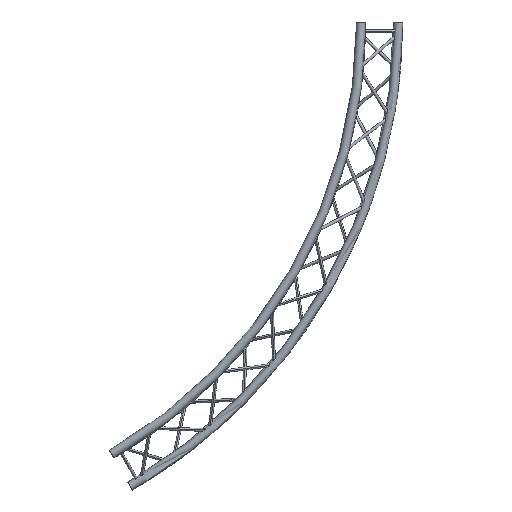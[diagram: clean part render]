
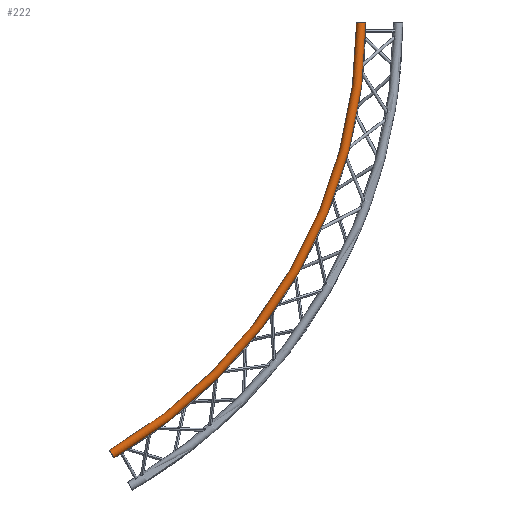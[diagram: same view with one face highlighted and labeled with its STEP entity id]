
A CAD part, front view. The second image highlights one B-rep face of the part: STEP entity #222.
In plain terms, the highlighted toroidal (fillet/blend) face has major radius 2769.75 mm and minor radius 25 mm.
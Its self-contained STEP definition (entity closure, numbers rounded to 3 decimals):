
#197 = EDGE_CURVE ( 'NONE', #198, #7421, #3575, .T. ) ;
#198 = VERTEX_POINT ( 'NONE', #3570 ) ;
#199 = ORIENTED_EDGE ( 'NONE', *, *, #200, .F. ) ;
#200 = EDGE_CURVE ( 'NONE', #208, #198, #3569, .T. ) ;
#206 = ORIENTED_EDGE ( 'NONE', *, *, #207, .T. ) ;
#207 = EDGE_CURVE ( 'NONE', #208, #209, #3636, .T. ) ;
#208 = VERTEX_POINT ( 'NONE', #3518 ) ;
#209 = VERTEX_POINT ( 'NONE', #3517 ) ;
#222 = ADVANCED_FACE ( 'NONE', ( #3690 ), #3689, .T. ) ;
#223 = EDGE_LOOP ( 'NONE', ( #206, #7210, #7288, #199 ) ) ;
#3517 = CARTESIAN_POINT ( 'NONE',  ( 1397.376, -118.5, -2420.326 ) ) ;
#3518 = CARTESIAN_POINT ( 'NONE',  ( 1372.376, -118.5, -2377.025 ) ) ;
#3519 = DIRECTION ( 'NONE',  ( 0.5, 0., -0.866 ) ) ;
#3520 = DIRECTION ( 'NONE',  ( 0.866, 0., 0.5 ) ) ;
#3521 = CARTESIAN_POINT ( 'NONE',  ( 1384.876, -118.5, -2398.676 ) ) ;
#3522 = AXIS2_PLACEMENT_3D ( 'NONE', #3521, #3520, #3519 ) ;
#3565 = DIRECTION ( 'NONE',  ( 0., 0., -1. ) ) ;
#3566 = DIRECTION ( 'NONE',  ( 0., -1., 0. ) ) ;
#3567 = CARTESIAN_POINT ( 'NONE',  ( 0., -118.5, 0. ) ) ;
#3568 = AXIS2_PLACEMENT_3D ( 'NONE', #3567, #3566, #3565 ) ;
#3569 = CIRCLE ( 'NONE', #3568, 2744.752 ) ;
#3570 = CARTESIAN_POINT ( 'NONE',  ( 2744.752, -118.5, 0. ) ) ;
#3571 = DIRECTION ( 'NONE',  ( 1., 0., 0. ) ) ;
#3572 = DIRECTION ( 'NONE',  ( 0., 0., 1. ) ) ;
#3573 = CARTESIAN_POINT ( 'NONE',  ( 2769.752, -118.5, 0. ) ) ;
#3574 = AXIS2_PLACEMENT_3D ( 'NONE', #3573, #3572, #3571 ) ;
#3575 = CIRCLE ( 'NONE', #3574, 25. ) ;
#3636 = CIRCLE ( 'NONE', #3522, 25. ) ;
#3684 = DIRECTION ( 'NONE',  ( 0., 0., -1. ) ) ;
#3685 = DIRECTION ( 'NONE',  ( 0., -1., 0. ) ) ;
#3686 = AXIS2_PLACEMENT_3D ( 'NONE', #3688, #3685, #3684 ) ;
#3688 = CARTESIAN_POINT ( 'NONE',  ( 0., -118.5, 0. ) ) ;
#3689 = TOROIDAL_SURFACE ( 'NONE', #3686, 2769.752, 25. ) ;
#3690 = FACE_OUTER_BOUND ( 'NONE', #223, .T. ) ;
#7210 = ORIENTED_EDGE ( 'NONE', *, *, #7420, .T. ) ;
#7288 = ORIENTED_EDGE ( 'NONE', *, *, #197, .F. ) ;
#7420 = EDGE_CURVE ( 'NONE', #209, #7421, #9997, .T. ) ;
#7421 = VERTEX_POINT ( 'NONE', #9540 ) ;
#9384 = DIRECTION ( 'NONE',  ( 0., 0., -1. ) ) ;
#9540 = CARTESIAN_POINT ( 'NONE',  ( 2794.752, -118.5, 0. ) ) ;
#9994 = DIRECTION ( 'NONE',  ( 0., -1., 0. ) ) ;
#9995 = CARTESIAN_POINT ( 'NONE',  ( 0., -118.5, 0. ) ) ;
#9996 = AXIS2_PLACEMENT_3D ( 'NONE', #9995, #9994, #9384 ) ;
#9997 = CIRCLE ( 'NONE', #9996, 2794.752 ) ;
